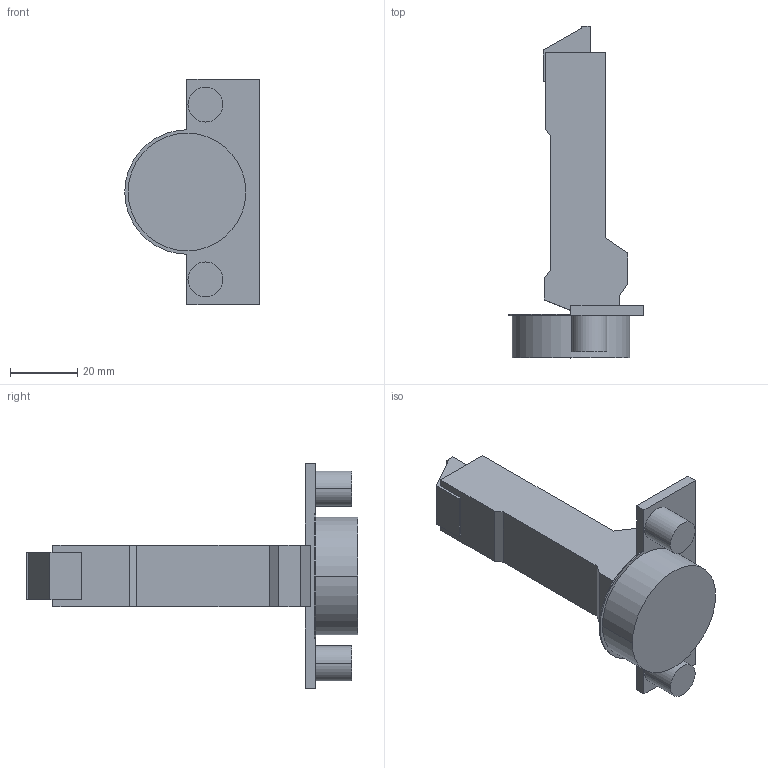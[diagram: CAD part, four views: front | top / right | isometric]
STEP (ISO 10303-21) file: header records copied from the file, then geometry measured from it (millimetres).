
FILE_DESCRIPTION (( 'STEP AP214' ), '1' );
FILE_NAME ('Scharnier TS Click-on 95° H_BB, K95_Dübel.step', '2010-12-06T09:51:07', ( 'grass' ), ( '' ), 'SwSTEP 2.0', 'SolidWorks 2010', '' );
FILE_SCHEMA (( 'AUTOMOTIVE_DESIGN' ));
Length unit declared in the file: millimetre
Products named in the file (1): Scharnier TS Click-on 95° H_BB, K95_Dübel
Bounding box: 40 x 98.7 x 67 mm (x, y, z)
Volume: 44603.7 mm3; surface area: 12836.6 mm2
Topology: 1 solids, 1 shells, 56 faces, 138 edges, 92 vertices
Faces by surface type: plane 39, cylinder 17
Entity records: 1690 total; most frequent: CARTESIAN_POINT 287, DIRECTION 286, ORIENTED_EDGE 276, EDGE_CURVE 138, LINE 104, VECTOR 104, VERTEX_POINT 92, AXIS2_PLACEMENT_3D 91
